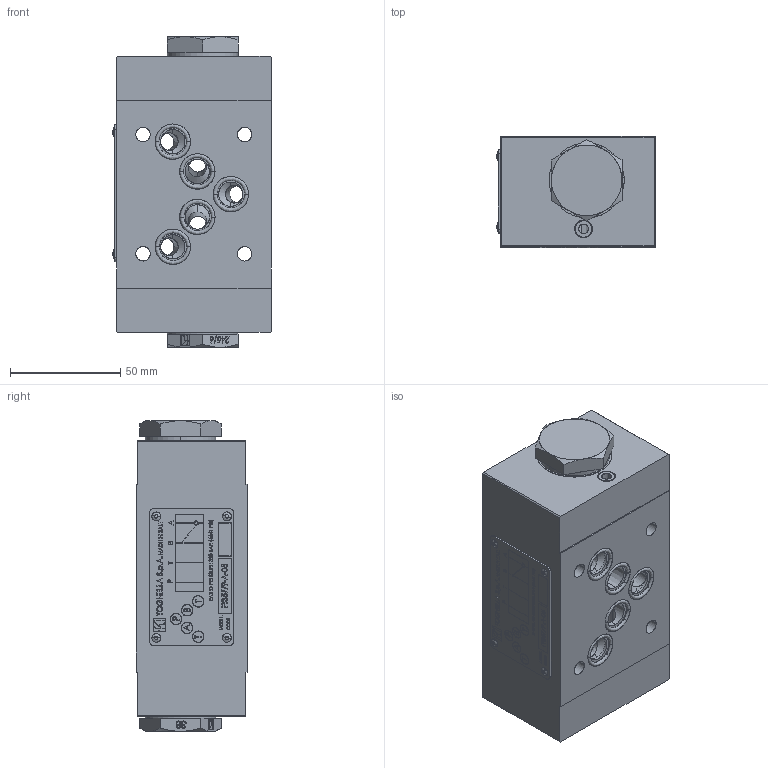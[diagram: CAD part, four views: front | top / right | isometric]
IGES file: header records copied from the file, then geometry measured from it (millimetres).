
Start section: SolidWorks IGES file using analytic representation for surfaces
Global section: file name: C:\Users\pc-te25\Desktop\357-9-A-05.IGS; native system: SolidWorks 2018; preprocessor: SolidWorks 2018; author: pc-te25; date: 191204.091246; units: millimetre
Bounding box: 71.66 x 50.58 x 140.6 mm (x, y, z)
Surface area: 54264.7 mm2 (no closed solid volume)
Topology: 0 solids, 0 shells, 749 faces, 14382 edges, 14376 vertices
Faces by surface type: bspline 561, revolution 188
